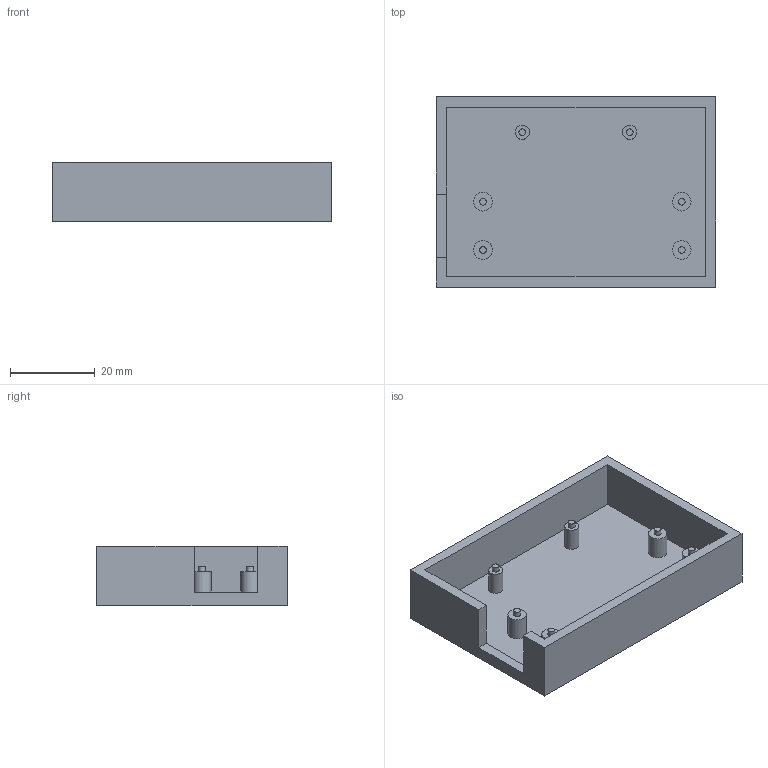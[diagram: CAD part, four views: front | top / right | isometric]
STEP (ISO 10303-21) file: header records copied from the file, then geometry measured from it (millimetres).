
FILE_DESCRIPTION(('Open CASCADE Model'),'2;1');
FILE_NAME('Open CASCADE Shape Model','2026-10-23T21:21:33',('Author'),( 'Open CASCADE'),'Open CASCADE STEP processor 8.0','Open CASCADE 8.0' ,'Unknown');
FILE_SCHEMA(('AUTOMOTIVE_DESIGN { 1 0 10303 214 1 1 1 1 }'));
Length unit declared in the file: millimetre
Products named in the file (1): Open CASCADE STEP translator 8.0 1
Bounding box: 66 x 45 x 14 mm (x, y, z)
Volume: 13556.4 mm3; surface area: 11553.8 mm2
Topology: 1 solids, 1 shells, 38 faces, 72 edges, 48 vertices
Faces by surface type: plane 26, cylinder 12
Full cylindrical faces by diameter (mm): 1.6 x6, 3.4 x2, 4.4 x4
Entity records: 1880 total; most frequent: CARTESIAN_POINT 329, DIRECTION 292, ORIENTED_EDGE 144, PCURVE 144, DEFINITIONAL_REPRESENTATION 144, LINE 142, VECTOR 142, EDGE_CURVE 72
